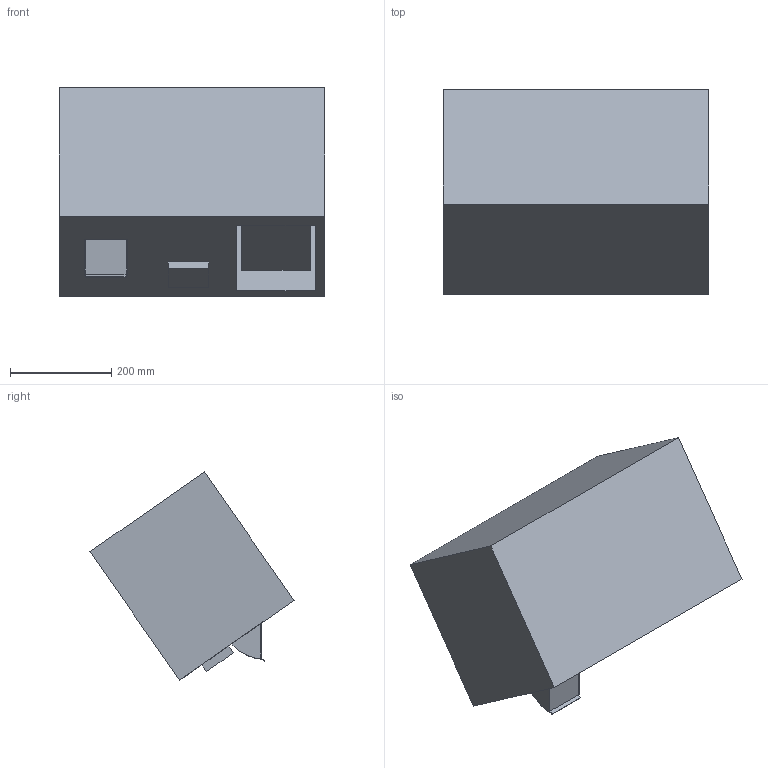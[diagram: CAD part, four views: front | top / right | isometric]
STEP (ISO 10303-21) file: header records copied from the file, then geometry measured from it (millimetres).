
FILE_DESCRIPTION(/* description */ (''),/* implementation_level */ '2;1');
FILE_NAME(/* name */ 'D:/dgooch/Documents/CADENG/PRO/AmHaze Stadium/0/3D/Amhaze Stadium_3D.step',/* time_stamp */ '2019-12-16T16:28:25-05:00',/* author */ (''),/* organization */ (''),/* preprocessor_version */ 'ST-DEVELOPER v18',/* originating_system */ 'Autodesk Translation Framework v8.12.0.6',/* authorisation */ '');
FILE_SCHEMA (('AUTOMOTIVE_DESIGN { 1 0 10303 214 3 1 1 }'));
Length unit declared in the file: millimetre
Products named in the file (1): Amhaze Stadium_3D
Bounding box: 523.43 x 402.65 x 410.97 mm (x, y, z)
Volume: 41432764 mm3; surface area: 1244203.3 mm2
Topology: 2 solids, 2 shells, 35 faces, 82 edges, 54 vertices
Faces by surface type: plane 33, cylinder 2
Entity records: 1018 total; most frequent: CARTESIAN_POINT 172, ORIENTED_EDGE 164, DIRECTION 160, EDGE_CURVE 82, LINE 76, VECTOR 76, VERTEX_POINT 54, AXIS2_PLACEMENT_3D 42
